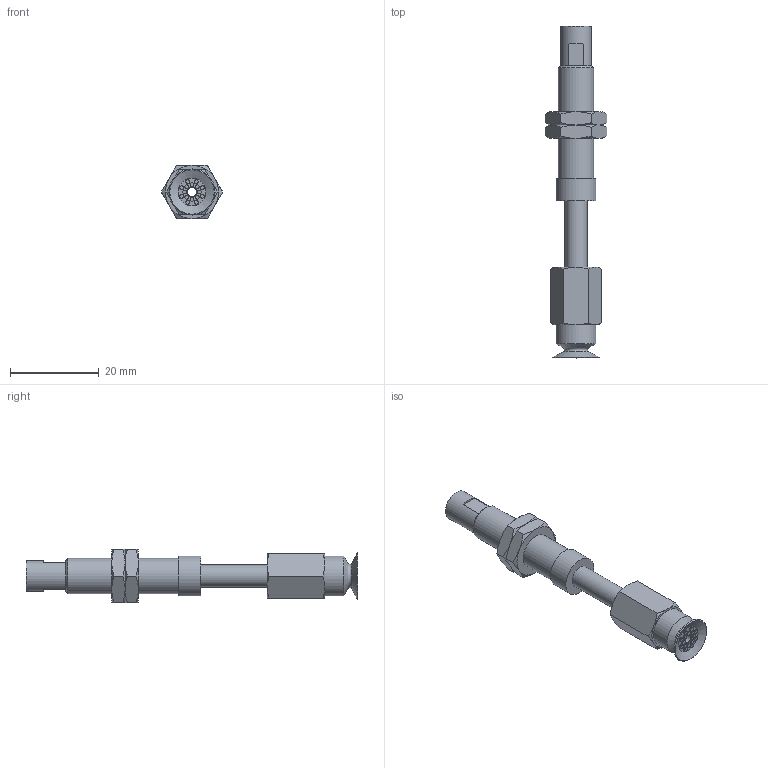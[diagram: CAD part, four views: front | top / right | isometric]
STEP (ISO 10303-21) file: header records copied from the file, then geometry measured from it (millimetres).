
FILE_DESCRIPTION(('STEP AP203'),'1');
FILE_NAME('.stp','2025-08-26T08:39:03',(' '),(' '),'Spatial InterOp 3D',' ',' ');
FILE_SCHEMA(('CONFIG_CONTROL_DESIGN'));
Length unit declared in the file: millimetre
Products named in the file (6): BNABPATS-10A-15-※; ADAPTER; NAPATS-10A-15--M; NAPATS-10A-15--F; Nut-10A-S; BPAG-10A-※_3D
Assembly tree (6 placements, depth 2):
  BNABPATS-10A-15-※
    ADAPTER
    NAPATS-10A-15--M
    NAPATS-10A-15--F
    Nut-10A-S  x2
    BPAG-10A-※_3D
Bounding box: 13.86 x 75 x 12 mm (x, y, z)
Volume: 3930.6 mm3; surface area: 4683.9 mm2
Topology: 6 solids, 6 shells, 145 faces, 283 edges, 173 vertices
Faces by surface type: plane 57, cone 46, cylinder 32, torus 10
Full cylindrical faces by diameter (mm): 0.9 x16, 2 x3, 4 x2, 4.134 x1, 5 x2, 6 x2, 7 x1, 7.188 x2, 8 x1, 9 x2
Entity records: 3284 total; most frequent: CARTESIAN_POINT 731, DIRECTION 494, ORIENTED_EDGE 354, AXIS2_PLACEMENT_3D 236, EDGE_LOOP 204, EDGE_CURVE 177, FACE_OUTER_BOUND 163, VERTEX_POINT 137
